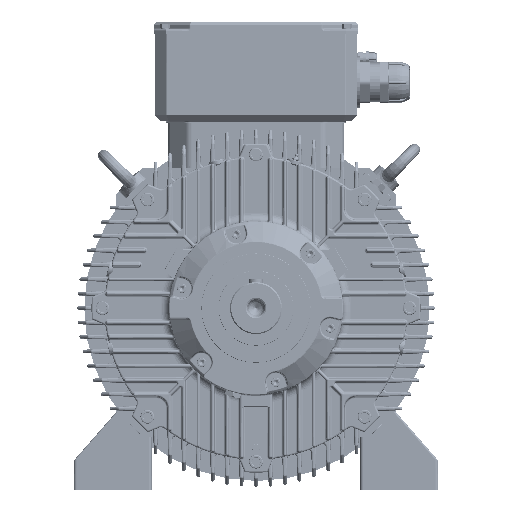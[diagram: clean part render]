
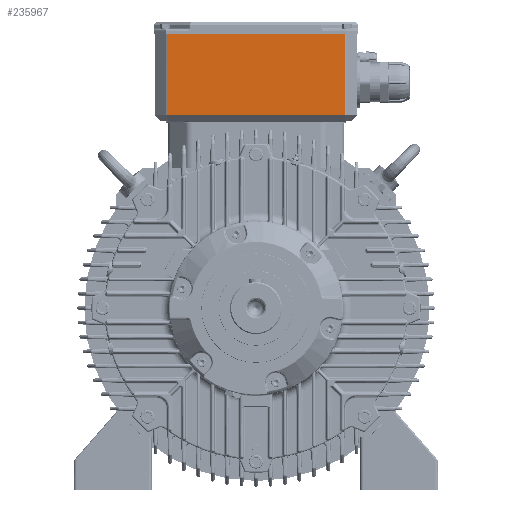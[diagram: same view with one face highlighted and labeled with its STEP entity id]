
A CAD part, front view. The second image highlights one B-rep face of the part: STEP entity #235967.
In plain terms, the highlighted planar face has unit normal (0, -1, 0).
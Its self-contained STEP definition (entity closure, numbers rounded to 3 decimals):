
#9769=PLANE('',#246681);
#43656=ORIENTED_EDGE('',*,*,#79792,.T.);
#43657=ORIENTED_EDGE('',*,*,#79390,.F.);
#43658=ORIENTED_EDGE('',*,*,#79789,.T.);
#43659=ORIENTED_EDGE('',*,*,#79793,.T.);
#79390=EDGE_CURVE('',#99672,#99673,#118507,.T.);
#79789=EDGE_CURVE('',#99672,#99960,#118644,.T.);
#79792=EDGE_CURVE('',#99962,#99673,#118645,.F.);
#79793=EDGE_CURVE('',#99960,#99962,#118646,.T.);
#99672=VERTEX_POINT('',#333886);
#99673=VERTEX_POINT('',#333888);
#99960=VERTEX_POINT('',#335277);
#99962=VERTEX_POINT('',#335283);
#118507=LINE('',#333887,#134241);
#118644=LINE('',#335276,#134378);
#118645=LINE('',#335282,#134379);
#118646=LINE('',#335284,#134380);
#134241=VECTOR('',#278355,1000.);
#134378=VECTOR('',#279218,1000.);
#134379=VECTOR('',#279225,1000.);
#134380=VECTOR('',#279226,1000.);
#145149=EDGE_LOOP('',(#43656,#43657,#43658,#43659));
#157303=FACE_BOUND('',#145149,.T.);
#235967=ADVANCED_FACE('',(#157303),#9769,.T.);
#246681=AXIS2_PLACEMENT_3D('',#335281,#279223,#279224);
#278355=DIRECTION('',(1.,0.,0.));
#279218=DIRECTION('',(0.,0.,-1.));
#279223=DIRECTION('',(0.,-1.,0.));
#279224=DIRECTION('',(1.,0.,0.));
#279225=DIRECTION('',(0.,0.,-1.));
#279226=DIRECTION('',(1.,0.,0.));
#333886=CARTESIAN_POINT('',(-153.757,40.,474.));
#333887=CARTESIAN_POINT('',(-177.5,40.,474.));
#333888=CARTESIAN_POINT('',(153.757,40.,474.));
#335276=CARTESIAN_POINT('',(-153.757,40.,476.5));
#335277=CARTESIAN_POINT('',(-153.757,40.,334.));
#335281=CARTESIAN_POINT('',(155.,40.,476.5));
#335282=CARTESIAN_POINT('',(153.757,40.,476.5));
#335283=CARTESIAN_POINT('',(153.757,40.,334.));
#335284=CARTESIAN_POINT('',(155.,40.,334.));
